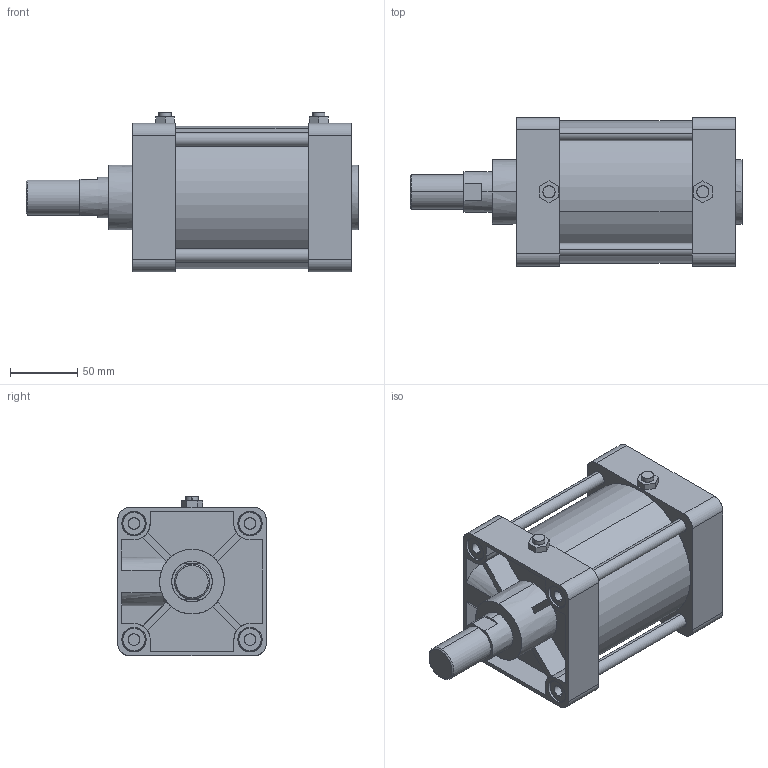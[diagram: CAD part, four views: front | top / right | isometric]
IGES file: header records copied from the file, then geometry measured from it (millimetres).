
Start section: SolidWorks IGES file using analytic representation for surfaces
Global section: file name: C:\Users\Toshiba\Desktop\KG2-100-50-N.IGS; native system: SolidWorks 2014; preprocessor: SolidWorks 2014; author: Toshiba; date: 160401.162348; units: millimetre
Bounding box: 246 x 110 x 118.3 mm (x, y, z)
Surface area: 205775.6 mm2 (no closed solid volume)
Topology: 0 solids, 0 shells, 305 faces, 4709 edges, 4705 vertices
Faces by surface type: bspline 164, revolution 141
